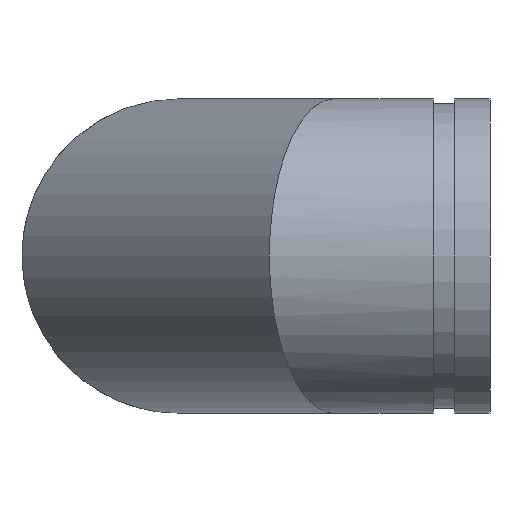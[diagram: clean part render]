
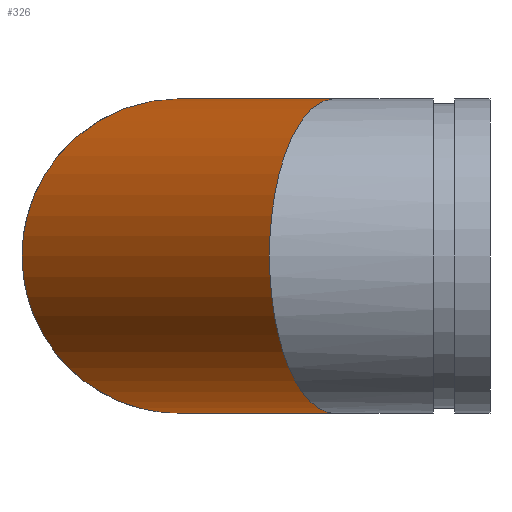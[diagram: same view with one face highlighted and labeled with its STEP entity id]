
A CAD part, left-side view. The second image highlights one B-rep face of the part: STEP entity #326.
In plain terms, the highlighted cylindrical face has radius 70.65 mm (diameter 141.3 mm), a full revolution.
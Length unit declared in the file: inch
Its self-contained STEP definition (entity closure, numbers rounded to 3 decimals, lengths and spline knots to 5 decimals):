
#51=ELLIPSE('',#383,3.01067,2.7815);
#52=ELLIPSE('',#384,3.01067,2.7815);
#53=ELLIPSE('',#385,3.01067,2.7815);
#54=ELLIPSE('',#388,3.01067,2.7815);
#55=ELLIPSE('',#389,3.01067,2.7815);
#56=ELLIPSE('',#390,3.01067,2.7815);
#82=FACE_OUTER_BOUND('',#103,.T.);
#103=EDGE_LOOP('',(#269,#270,#271,#272,#273,#274,#275,#276));
#115=LINE('',#606,#125);
#125=VECTOR('',#494,2.7815);
#165=VERTEX_POINT('',#596);
#166=VERTEX_POINT('',#598);
#167=VERTEX_POINT('',#600);
#168=VERTEX_POINT('',#605);
#169=VERTEX_POINT('',#607);
#170=VERTEX_POINT('',#609);
#201=EDGE_CURVE('',#165,#166,#51,.T.);
#202=EDGE_CURVE('',#167,#166,#52,.T.);
#203=EDGE_CURVE('',#167,#165,#53,.T.);
#204=EDGE_CURVE('',#165,#168,#115,.T.);
#205=EDGE_CURVE('',#168,#169,#54,.T.);
#206=EDGE_CURVE('',#170,#169,#55,.T.);
#207=EDGE_CURVE('',#170,#168,#56,.T.);
#269=ORIENTED_EDGE('',*,*,#203,.F.);
#270=ORIENTED_EDGE('',*,*,#202,.T.);
#271=ORIENTED_EDGE('',*,*,#201,.F.);
#272=ORIENTED_EDGE('',*,*,#204,.T.);
#273=ORIENTED_EDGE('',*,*,#205,.T.);
#274=ORIENTED_EDGE('',*,*,#206,.F.);
#275=ORIENTED_EDGE('',*,*,#207,.T.);
#276=ORIENTED_EDGE('',*,*,#204,.F.);
#293=CYLINDRICAL_SURFACE('',#387,2.7815);
#326=ADVANCED_FACE('',(#82),#293,.T.);
#383=AXIS2_PLACEMENT_3D('',#599,#484,#485);
#384=AXIS2_PLACEMENT_3D('',#601,#486,#487);
#385=AXIS2_PLACEMENT_3D('',#602,#488,#489);
#387=AXIS2_PLACEMENT_3D('',#604,#492,#493);
#388=AXIS2_PLACEMENT_3D('',#608,#495,#496);
#389=AXIS2_PLACEMENT_3D('',#610,#497,#498);
#390=AXIS2_PLACEMENT_3D('',#611,#499,#500);
#484=DIRECTION('center_axis',(-0.383,-0.924,0.));
#485=DIRECTION('ref_axis',(0.924,-0.383,0.));
#486=DIRECTION('center_axis',(0.383,0.924,0.));
#487=DIRECTION('ref_axis',(0.924,-0.383,0.));
#488=DIRECTION('center_axis',(-0.383,-0.924,0.));
#489=DIRECTION('ref_axis',(0.924,-0.383,0.));
#492=DIRECTION('center_axis',(-0.707,-0.707,0.));
#493=DIRECTION('ref_axis',(0.707,-0.707,0.));
#494=DIRECTION('',(0.707,0.707,0.));
#495=DIRECTION('center_axis',(-0.924,-0.383,0.));
#496=DIRECTION('ref_axis',(0.383,-0.924,0.));
#497=DIRECTION('center_axis',(0.924,0.383,0.));
#498=DIRECTION('ref_axis',(0.383,-0.924,0.));
#499=DIRECTION('center_axis',(-0.924,-0.383,0.));
#500=DIRECTION('ref_axis',(0.383,-0.924,0.));
#596=CARTESIAN_POINT('',(-2.7815,-1.59786,0.));
#598=CARTESIAN_POINT('',(0.,-2.75,-2.7815));
#599=CARTESIAN_POINT('Origin',(0.,-2.75,0.));
#600=CARTESIAN_POINT('',(0.,-2.75,2.7815));
#601=CARTESIAN_POINT('Origin',(0.,-2.75,0.));
#602=CARTESIAN_POINT('Origin',(0.,-2.75,0.));
#604=CARTESIAN_POINT('Origin',(2.75,0.,0.));
#605=CARTESIAN_POINT('',(1.59786,2.7815,0.));
#606=CARTESIAN_POINT('',(0.78318,1.96682,0.));
#607=CARTESIAN_POINT('',(2.75,0.,-2.7815));
#608=CARTESIAN_POINT('Origin',(2.75,0.,0.));
#609=CARTESIAN_POINT('',(2.75,0.,2.7815));
#610=CARTESIAN_POINT('Origin',(2.75,0.,0.));
#611=CARTESIAN_POINT('Origin',(2.75,0.,0.));
